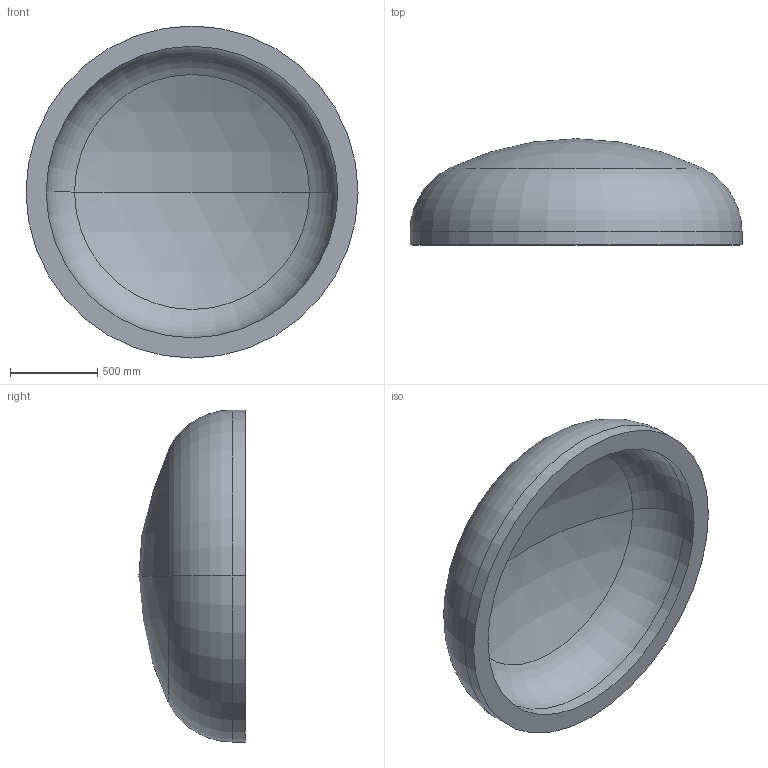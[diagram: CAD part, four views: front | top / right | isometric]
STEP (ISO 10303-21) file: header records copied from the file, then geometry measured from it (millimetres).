
FILE_DESCRIPTION (( 'STEP AP203' ), '1' );
FILE_NAME ('DIN 28013 Korbbogenform_-_Boden DIN 28013 - 1900 x 75 - I - s=116.step', '2016-07-01T13:30:11', ( '' ), ( '' ), 'SwSTEP 2.0', 'SolidWorks 2013', '' );
FILE_SCHEMA (( 'CONFIG_CONTROL_DESIGN' ));
Length unit declared in the file: millimetre
Products named in the file (1): DIN 28013 Korbbogenform_-_Boden DIN 28013 - 1900 x 75 - I - s=116
Bounding box: 1900 x 607.84 x 1900 mm (x, y, z)
Volume: 469420852.7 mm3; surface area: 8771776.8 mm2
Topology: 1 solids, 1 shells, 13 faces, 24 edges, 14 vertices
Faces by surface type: torus 4, cylinder 4, sphere 4, plane 1
Entity records: 407 total; most frequent: DIRECTION 72, CARTESIAN_POINT 52, ORIENTED_EDGE 48, AXIS2_PLACEMENT_3D 34, EDGE_CURVE 24, CIRCLE 20, EDGE_LOOP 14, VERTEX_POINT 14
